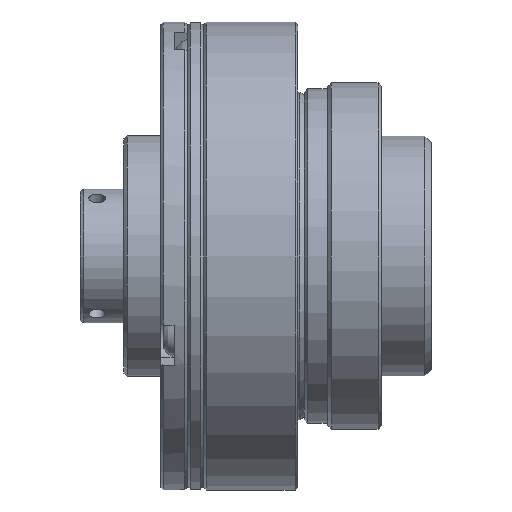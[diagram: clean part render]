
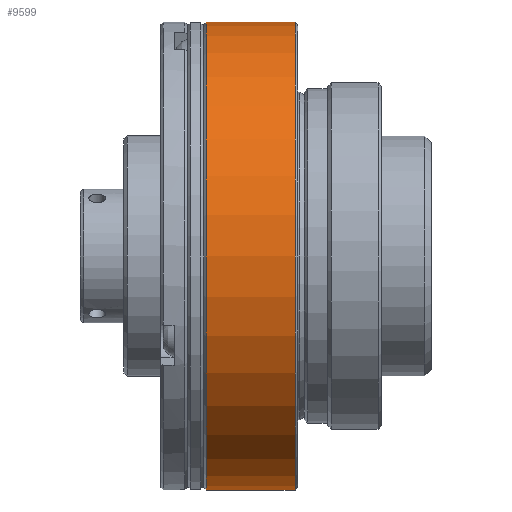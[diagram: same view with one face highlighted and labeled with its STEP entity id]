
A CAD part, front view. The second image highlights one B-rep face of the part: STEP entity #9599.
In plain terms, the highlighted cylindrical face has radius 35 mm (diameter 70 mm), a full revolution.
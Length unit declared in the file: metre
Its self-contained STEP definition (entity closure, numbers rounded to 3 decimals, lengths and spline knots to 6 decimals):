
#832 = CARTESIAN_POINT ( 'NONE',  ( 0.0188, 0., 0. ) ) ;
#2379 = CARTESIAN_POINT ( 'NONE',  ( 0.010358, 0., 0. ) ) ;
#4583 = CIRCLE ( 'NONE', #26431, 0.035 ) ;
#5250 = CARTESIAN_POINT ( 'NONE',  ( 0.0321, -0.035, 0. ) ) ;
#8758 = EDGE_LOOP ( 'NONE', ( #23290 ) ) ;
#8880 = DIRECTION ( 'NONE',  ( 0., -1., 0. ) ) ;
#8952 = FACE_OUTER_BOUND ( 'NONE', #8758, .T. ) ;
#9599 = ADVANCED_FACE ( 'NONE', ( #23550, #8952 ), #16284, .T. ) ;
#9999 = CARTESIAN_POINT ( 'NONE',  ( 0.0321, 0., 0. ) ) ;
#14623 = EDGE_LOOP ( 'NONE', ( #27820 ) ) ;
#16202 = DIRECTION ( 'NONE',  ( -1., 0., 0. ) ) ;
#16265 = AXIS2_PLACEMENT_3D ( 'NONE', #832, #29310, #17214 ) ;
#16284 = CYLINDRICAL_SURFACE ( 'NONE', #29500, 0.035 ) ;
#17214 = DIRECTION ( 'NONE',  ( 0., -1., 0. ) ) ;
#17744 = EDGE_CURVE ( 'NONE', #28107, #28107, #29619, .T. ) ;
#19442 = EDGE_CURVE ( 'NONE', #28717, #28717, #4583, .T. ) ;
#21367 = DIRECTION ( 'NONE',  ( -1., 0., 0. ) ) ;
#23016 = CARTESIAN_POINT ( 'NONE',  ( 0.0188, -0.035, 0. ) ) ;
#23290 = ORIENTED_EDGE ( 'NONE', *, *, #17744, .T. ) ;
#23550 = FACE_OUTER_BOUND ( 'NONE', #14623, .T. ) ;
#25422 = DIRECTION ( 'NONE',  ( 0., -1., 0. ) ) ;
#26431 = AXIS2_PLACEMENT_3D ( 'NONE', #9999, #16202, #8880 ) ;
#27820 = ORIENTED_EDGE ( 'NONE', *, *, #19442, .T. ) ;
#28107 = VERTEX_POINT ( 'NONE', #23016 ) ;
#28717 = VERTEX_POINT ( 'NONE', #5250 ) ;
#29310 = DIRECTION ( 'NONE',  ( 1., 0., 0. ) ) ;
#29500 = AXIS2_PLACEMENT_3D ( 'NONE', #2379, #21367, #25422 ) ;
#29619 = CIRCLE ( 'NONE', #16265, 0.035 ) ;
